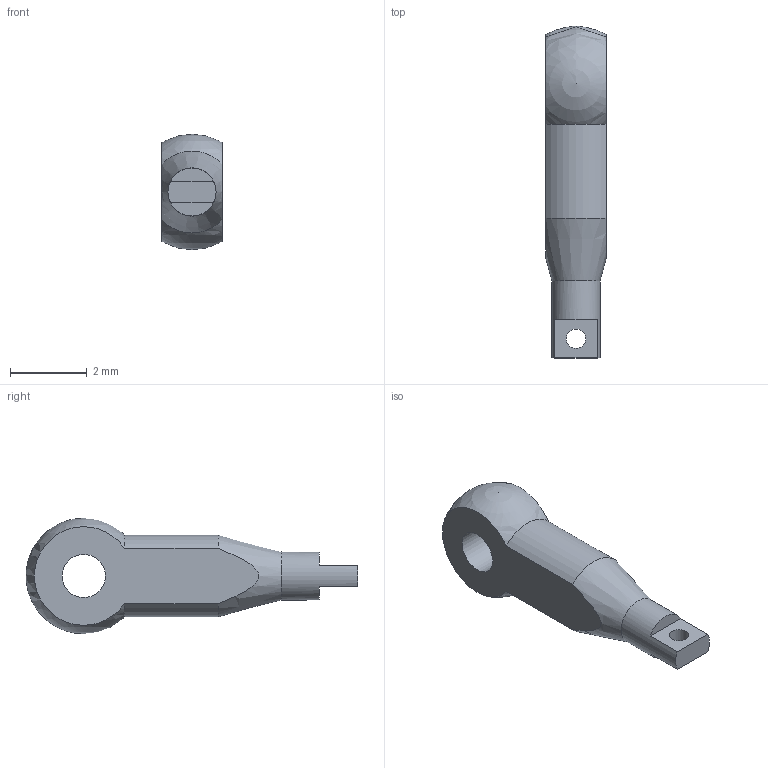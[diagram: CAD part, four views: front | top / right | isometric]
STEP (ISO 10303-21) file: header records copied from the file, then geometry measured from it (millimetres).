
FILE_DESCRIPTION(/* description */ ('Alibre Inc.'),/* implementation_level */ '2;1');
FILE_NAME(/* name */ 'export0',/* time_stamp */ '2005-02-11T17:32:55-06:00',/* author */ (''),/* organization */ (''),/* preprocessor_version */ 'ST-DEVELOPER v10',/* originating_system */ 'Alibre',/* authorisation */ '');
FILE_SCHEMA (('ALIBRE_SCHEMA','CONFIG_CONTROL_DESIGN'));
Length unit declared in the file: centimetre
Products named in the file (1): ID_1
Bounding box: 1.56 x 8.62 x 3 mm (x, y, z)
Volume: 20.3 mm3; surface area: 58.1 mm2
Topology: 1 solids, 1 shells, 14 faces, 39 edges, 26 vertices
Faces by surface type: plane 7, cylinder 5, sphere 1, cone 1
Full cylindrical faces by diameter (mm): 0.5 x1, 1.125 x1, 1.25 x1
Entity records: 1436 total; most frequent: CARTESIAN_POINT 182, DIRECTION 114, REFERENCEDEPENDENTUV 77, CONSTRAINTPAIRUV 73, ORIENTED_EDGE 58, VECTOR 58, REFERENCEPOINTUV 49, ENTITYHEADERPROPERTIES 46
